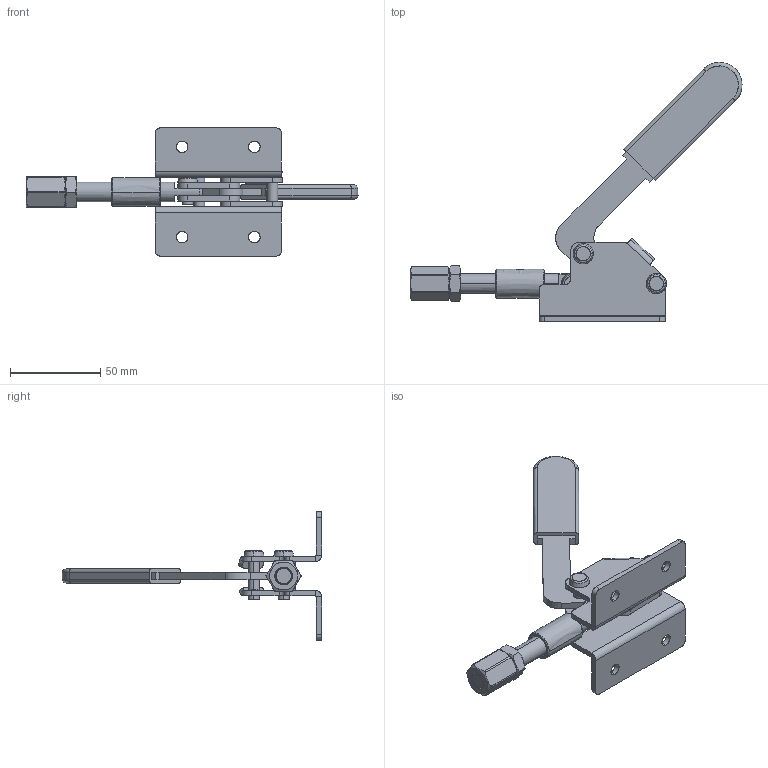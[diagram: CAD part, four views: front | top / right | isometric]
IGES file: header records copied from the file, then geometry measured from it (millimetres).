
Start section: SolidWorks IGES file using analytic representation for surfaces
Global section: file name: \\BARTOP_SV6\share\SOLIDWORKS\工具事業部\坂入用\受け渡し\2015.07.01\ISK-51B小0\ISK-51B小0.IGS,15HSolidWorks; native system: 2015; preprocessor: SolidWorks 2015; author: SOLID02; date: 150701.103148; units: millimetre
Bounding box: 183.87 x 143.54 x 71 mm (x, y, z)
Surface area: 49151 mm2 (no closed solid volume)
Topology: 0 solids, 0 shells, 304 faces, 4618 edges, 4612 vertices
Faces by surface type: revolution 170, bspline 134
